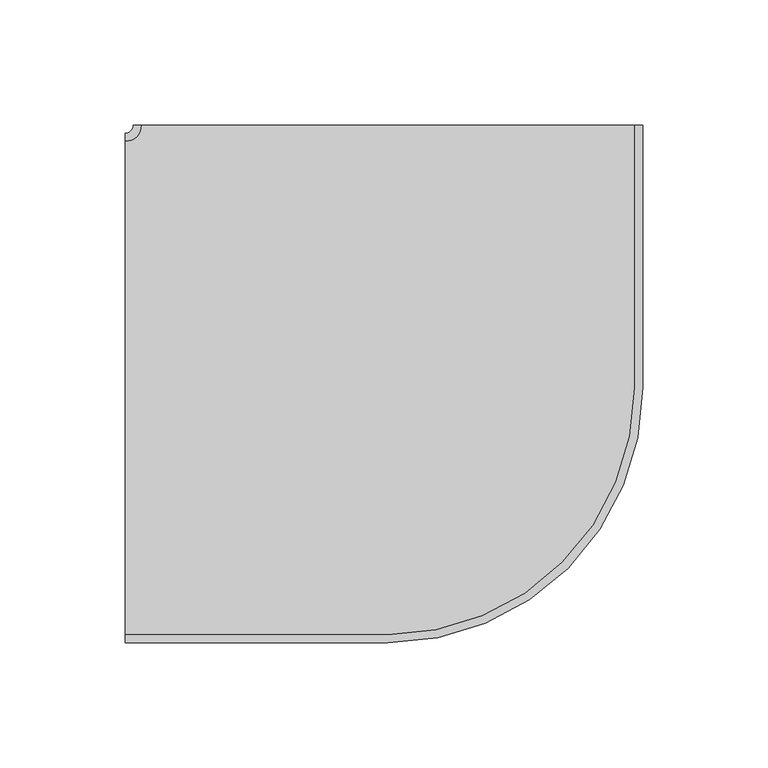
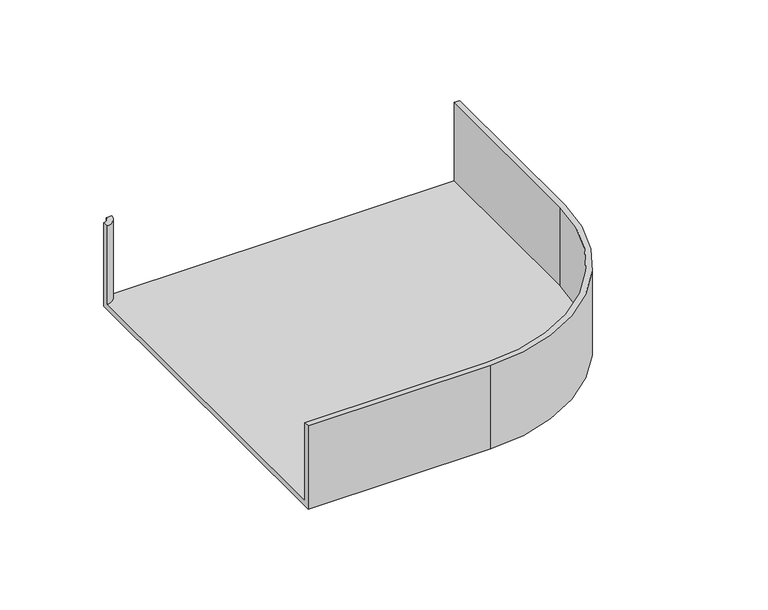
"""IFC4 building model written with IfcOpenShell, lengths in millimetres: cable carrier fitting geometry, Bend-Horizontal-Cablofil-Wire_Mesh_Cable_Tray : RAD T 90 KIT."""

from ifc_helpers import new_model, si_unit, frame, origin, place, context, project, spatial, polyline, circle_curve, source, transform, mapped, element, save
from ifc_brep_helpers import plane_surface, cylinder_surface, revolved_surface, advanced_brep


def cable_carrier_fitting_ac902b17(model_context):
    return source(origin(), model_context, "Body", "AdvancedBrep", [
        advanced_brep(
        [(-98.425, 104.775, 25.4), (-98.425, 104.775, -22.225), (98.425, 104.775, -22.225), (98.425, 104.775, 25.4), (101.6, 104.775, 25.4), (101.6, 104.775, -25.4), (-101.6, 104.775, -25.4), (-101.6, 104.775, 25.4), (-104.775, 98.425, 25.4), (-104.775, 101.6, 25.4), (-104.775, 101.6, -25.4), (-104.775, -101.6, -25.4), (-104.775, -101.6, 25.4), (-104.775, -98.425, 25.4), (-104.775, -98.425, -22.225), (-104.775, 98.425, -22.225), (101.6, 0.0, -25.4), (0.0, -101.6, -25.4), (98.425, 0.0, 25.4), (0.0, -98.425, 25.4), (0.0, -101.6, 25.4), (101.6, 0.0, 25.4), (98.425, 0.0, -22.225), (0.0, -98.425, -22.225)],
        [
            (0, 1),
            (1, 2),
            (2, 3),
            (3, 4),
            (4, 5),
            (5, 6),
            (6, 7),
            (7, 0),
            (8, 9),
            (9, 10),
            (10, 11),
            (11, 12),
            (12, 13),
            (13, 14),
            (14, 15),
            (15, 8),
            (10, 6, circle_curve(frame((-104.775, 104.775, -25.4), z_axis=(0.0, 0.0, 1.0), x_axis=(1.0, 0.0, 0.0)), 3.175)),
            (5, 16),
            (16, 17, circle_curve(frame((0.0, 0.0, -25.4), z_axis=(0.0, 0.0, -1.0), x_axis=(1.0, 0.0, 0.0)), 101.6)),
            (17, 11),
            (9, 7, circle_curve(frame((-104.775, 104.775, 25.4), z_axis=(0.0, 0.0, 1.0), x_axis=(1.0, 0.0, 0.0)), 3.175)),
            (8, 0, circle_curve(frame((-104.775, 104.775, 25.4), z_axis=(0.0, 0.0, 1.0), x_axis=(1.0, 0.0, 0.0)), 6.35)),
            (3, 18),
            (18, 19, circle_curve(frame((0.0, 0.0, 25.4), z_axis=(0.0, 0.0, -1.0), x_axis=(1.0, 0.0, 0.0)), 98.425)),
            (19, 13),
            (12, 20),
            (20, 21, circle_curve(frame((0.0, 0.0, 25.4), z_axis=(0.0, 0.0, 1.0), x_axis=(1.0, 0.0, 0.0)), 101.6)),
            (21, 4),
            (21, 16),
            (2, 22),
            (22, 18),
            (20, 17),
            (22, 23, circle_curve(frame((0.0, 0.0, -22.225), z_axis=(0.0, 0.0, -1.0), x_axis=(1.0, 0.0, 0.0)), 98.425)),
            (23, 19),
            (23, 14),
            (15, 1, circle_curve(frame((-104.775, 104.775, -22.225), z_axis=(0.0, 0.0, 1.0), x_axis=(1.0, 0.0, 0.0)), 6.35)),
        ],
        [
            plane_surface(frame((-104.775, 104.775, -304.8), z_axis=(0.0, 1.0, 0.0), x_axis=(1.0, 0.0, 0.0))),
            plane_surface(frame((-104.775, 104.775, -304.8), z_axis=(-1.0, 0.0, 0.0), x_axis=(0.0, -1.0, 0.0))),
            plane_surface(frame((-104.775, 104.775, -25.4), z_axis=(0.0, 0.0, -1.0), x_axis=(1.0, 0.0, 0.0))),
            revolved_surface(polyline([(-101.60000000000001, 104.775, -25.399999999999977), (-101.60000000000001, 104.775, 25.399999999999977)]), (-104.775, 104.775, -304.8), (0.0, 0.0, -1.0)),
            plane_surface(frame((-104.775, 104.775, 25.4), z_axis=(0.0, 0.0, 1.0), x_axis=(1.0, 0.0, 0.0))),
            plane_surface(frame((98.425, 104.775, 25.4), z_axis=(0.0, 0.0, 1.0), x_axis=(0.0, -1.0, 0.0))),
            plane_surface(frame((101.6, 104.775, 25.4), z_axis=(1.0, 0.0, 0.0), x_axis=(0.0, -1.0, 0.0))),
            plane_surface(frame((98.425, 104.775, -22.225), z_axis=(-1.0, 0.0, 0.0), x_axis=(0.0, -1.0, 0.0))),
            cylinder_surface(frame((0.0, 0.0, 0.0), z_axis=(0.0, 0.0, -1.0), x_axis=(1.0, 0.0, 0.0)), 101.6),
            revolved_surface(polyline([(98.425, 0.0, -22.225), (98.425, 0.0, 25.4)]), (0.0, 0.0, 0.0), (0.0, 0.0, -1.0)),
            plane_surface(frame((0.0, -101.6, 25.4), z_axis=(0.0, -1.0, 0.0), x_axis=(-1.0, 0.0, 0.0))),
            plane_surface(frame((0.0, -98.425, -22.225), z_axis=(0.0, 1.0, 0.0), x_axis=(-1.0, 0.0, 0.0))),
            cylinder_surface(frame((-104.775, 104.775, -304.8), z_axis=(0.0, 0.0, -1.0), x_axis=(1.0, 0.0, 0.0)), 6.35),
            plane_surface(frame((-104.775, 104.775, -22.225), z_axis=(0.0, 0.0, 1.0), x_axis=(1.0, 0.0, 0.0))),
        ],
        [
            (0, [[1, 2, 3, 4, 5, 6, 7, 8]]),
            (1, [[9, 10, 11, 12, 13, 14, 15, 16]]),
            (2, [[-11, 17, -6, 18, 19, 20]]),
            (3, [[-7, -17, -10, 21]]),
            (4, [[-8, -21, -9, 22]]),
            (5, [[-4, 23, 24, 25, -13, 26, 27, 28]]),
            (6, [[-5, -28, 29, -18]]),
            (7, [[-3, 30, 31, -23]]),
            (8, [[-27, 32, -19, -29]]),
            (9, [[-24, -31, 33, 34]]),
            (10, [[-26, -12, -20, -32]]),
            (11, [[-25, -34, 35, -14]]),
            (12, [[-1, -22, -16, 36]]),
            (13, [[-2, -36, -15, -35, -33, -30]]),
        ],
    ),
    ])


if __name__ == "__main__":
    model = new_model("IFC4")
    model_context = context("Model", 3, world=origin())
    ifc_project = project(units=[si_unit("LENGTHUNIT", "METRE", prefix="MILLI")], contexts=[model_context])
    site = spatial("IfcSite", under=ifc_project)
    building = spatial("IfcBuilding", under=site)
    placement = place(None, origin())
    cable_carrier_fitting_shape = cable_carrier_fitting_ac902b17(model_context)
    element("IfcCableCarrierFitting", 1, ObjectType="Bend-Horizontal-Cablofil-Wire_Mesh_Cable_Tray : RAD T 90 KIT", at=placement, inside=building, context=model_context, shape_type="MappedRepresentation", body=[
        mapped(cable_carrier_fitting_shape, transform((0.0, 0.0, 0.0), x_axis=(1.0, 0.0, 0.0), y_axis=(0.0, 1.0, 0.0), z_axis=(0.0, 0.0, 1.0))),
    ])
    save(model, "model.ifc")
